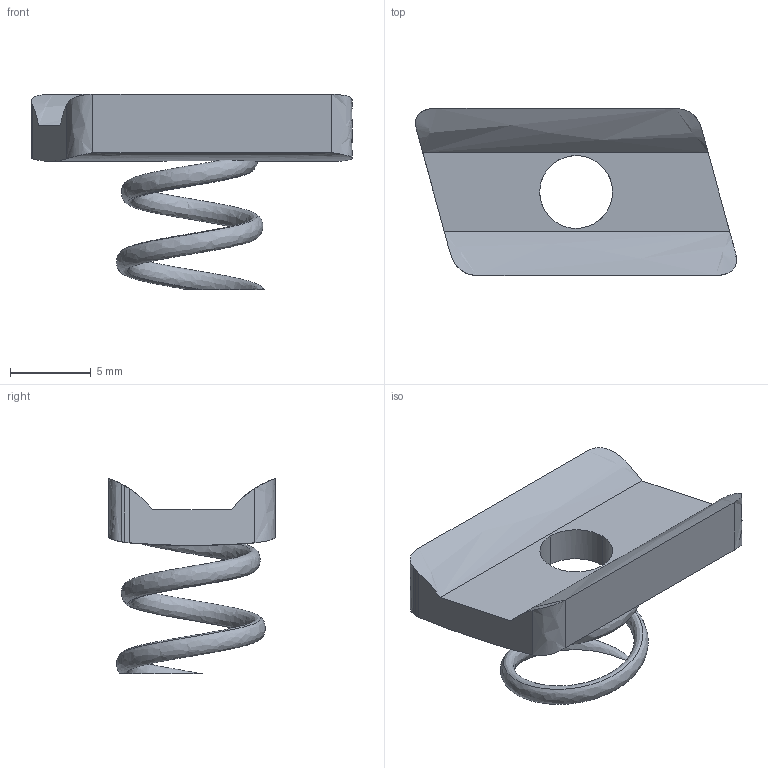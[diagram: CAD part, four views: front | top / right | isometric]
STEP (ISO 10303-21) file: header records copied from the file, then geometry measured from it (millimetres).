
FILE_DESCRIPTION(('TurboCAD Mac Pro'),'Build 980');
FILE_NAME('P7006-0832.stp',' ',(''),(''),'ACIS Interop','IMSI','TurboCAD Mac Pro BY IMSI, INCORPORATED');
FILE_SCHEMA(('automotive_design'));
Length unit declared in the file: inch
Products named in the file (1): 1
Bounding box: 19.82 x 10.31 x 12.06 mm (x, y, z)
Volume: 495.5 mm3; surface area: 723.7 mm2
Topology: 1 solids, 1 shells, 27 faces, 75 edges, 49 vertices
Faces by surface type: bspline 15, plane 12
Entity records: 3045 total; most frequent: CARTESIAN_POINT 2241, ORIENTED_EDGE 150, EDGE_CURVE 75, DIRECTION 57, VERTEX_POINT 49, B_SPLINE_CURVE_WITH_KNOTS 44, LINE 31, VECTOR 31
